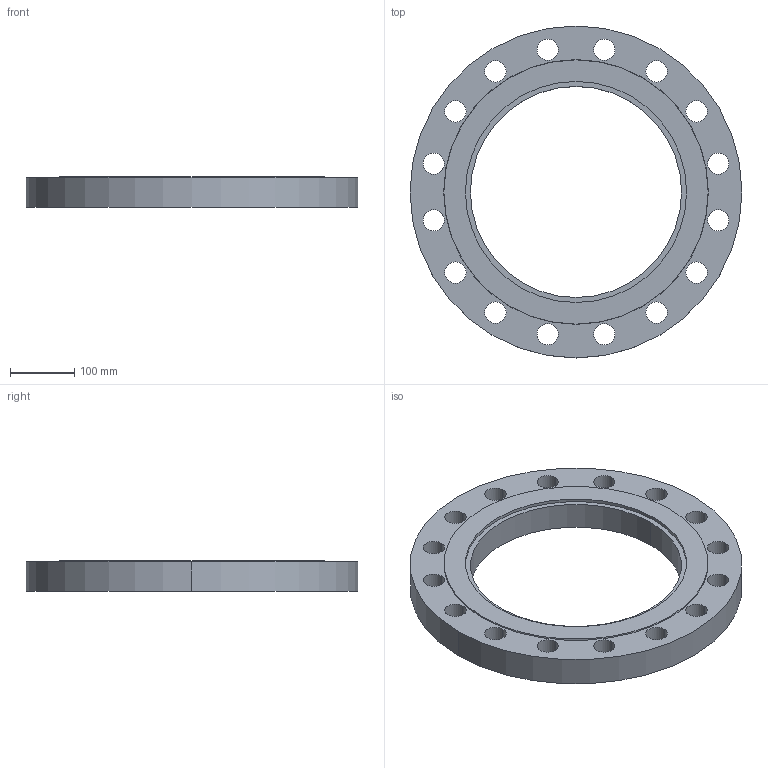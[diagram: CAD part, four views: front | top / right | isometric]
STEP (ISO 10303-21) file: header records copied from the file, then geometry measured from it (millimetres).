
FILE_DESCRIPTION (( 'STEP AP214' ), '1' );
FILE_NAME ('PN40 DN300 Type 01 - Type G Face.STEP', '2019-01-05T20:30:04', ( '' ), ( '' ), 'SwSTEP 2.0', 'SolidWorks 2019', '' );
FILE_SCHEMA (( 'AUTOMOTIVE_DESIGN' ));
Length unit declared in the file: millimetre
Products named in the file (1): PN40 DN300 Type 01 - Type G Face
Bounding box: 515 x 515 x 48 mm (x, y, z)
Volume: 5132860.5 mm3; surface area: 423287.3 mm2
Topology: 1 solids, 1 shells, 44 faces, 120 edges, 80 vertices
Faces by surface type: cylinder 38, plane 4, cone 2
Entity records: 1546 total; most frequent: DIRECTION 290, CARTESIAN_POINT 245, ORIENTED_EDGE 240, AXIS2_PLACEMENT_3D 125, EDGE_CURVE 120, CIRCLE 80, EDGE_LOOP 80, VERTEX_POINT 80
